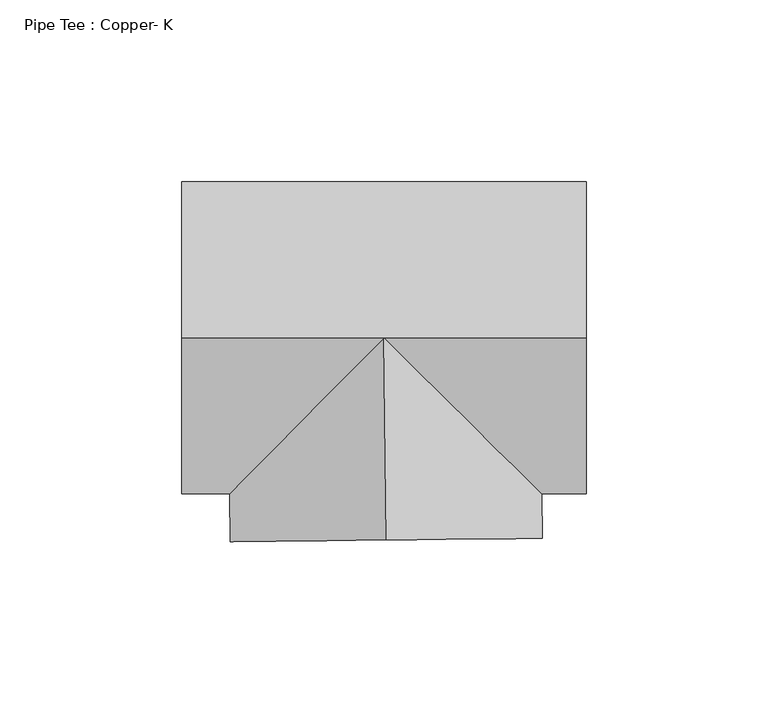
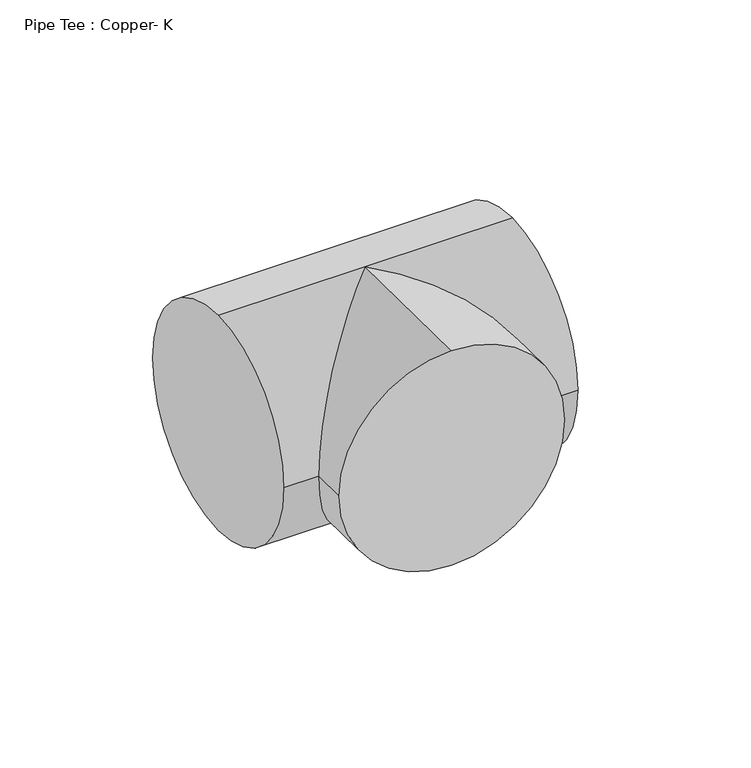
"""IFC4 building model written with IfcOpenShell, lengths in millimetres: pipe fitting geometry, Pipe Tee : Copper- K."""

import ifcopenshell
import ifcopenshell.guid

model = None  # the IFC model being written
_history = None  # IfcOwnerHistory: only IFC2X3 demands one
_inside = {}  # id of a spatial element -> (the spatial element, [elements in it])
_under = {}  # id of a project, library or spatial element -> (it, [spatial elements below it])
_declared = {}  # id of a project -> (the project, [libraries it declares])
_typed = {}  # id of a type object -> (the type object, [elements of that type])
_made_of = {}  # id of a material, layer set ... -> (it, [elements and type objects made of it])


def new_model(schema):
    """Start an empty IFC model of exactly this schema.

    Asked for "IFC4X3", IfcOpenShell would pick the latest addendum, in which some entities
    have other attributes; the version numbers below select the first issue.
    IFC2X3 requires an IfcOwnerHistory on every rooted entity: one is made here for all.
    """
    global model, _history
    if schema == "IFC4X3":
        model = ifcopenshell.file(schema_version=(4, 3, 0, 0))
    else:
        model = ifcopenshell.file(schema=schema)
    _inside.clear()
    _under.clear()
    _declared.clear()
    _typed.clear()
    _made_of.clear()
    _history = None
    if model.schema == "IFC2X3":
        org = make("IfcOrganization", Name="unknown")
        user = make(
            "IfcPersonAndOrganization",
            ThePerson=make("IfcPerson", FamilyName="unknown"),
            TheOrganization=org,
        )
        app = make(
            "IfcApplication",
            ApplicationDeveloper=org,
            Version="unknown",
            ApplicationFullName="unknown",
            ApplicationIdentifier="unknown",
        )
        _history = make(
            "IfcOwnerHistory",
            OwningUser=user,
            OwningApplication=app,
            ChangeAction="ADDED",
            CreationDate=0,
        )
    return model


def make(cls, **values):
    """One entity of the class cls with the attributes given. An attribute that is None is left unset."""
    return model.create_entity(
        cls, **{name: value for name, value in values.items() if value is not None}
    )


def rooted(cls, **values):
    """An entity with a GlobalId (a new one), such as an element, a storey or a relation."""
    return make(cls, GlobalId=ifcopenshell.guid.new(), OwnerHistory=_history, **values)


def si_unit(unit_type, name, prefix=None):
    """IfcSIUnit, for example si_unit("LENGTHUNIT", "METRE", prefix="MILLI")."""
    return make("IfcSIUnit", UnitType=unit_type, Prefix=prefix, Name=name)


def assignment(units):
    """IfcUnitAssignment: the units of a project."""
    return None if units is None else make("IfcUnitAssignment", Units=units)


def point(xyz):
    """IfcCartesianPoint."""
    return None if xyz is None else make("IfcCartesianPoint", Coordinates=xyz)


def direction(xyz):
    """IfcDirection."""
    return None if xyz is None else make("IfcDirection", DirectionRatios=xyz)


def frame(location, z_axis=None, x_axis=None):
    """IfcAxis2Placement3D, a coordinate frame: its origin and axes. An axis left out is left unset."""
    return make(
        "IfcAxis2Placement3D",
        Location=point(location),
        Axis=direction(z_axis),
        RefDirection=direction(x_axis),
    )


def origin():
    """The frame at (0, 0, 0) with its axes left unset."""
    return frame((0.0, 0.0, 0.0))


def place(relative_to, where):
    """IfcLocalPlacement: puts the frame where relative to a parent placement (None: the world)."""
    return make(
        "IfcLocalPlacement", PlacementRelTo=relative_to, RelativePlacement=where
    )


def context(
    kind, dimensions, precision=None, world=None, true_north=None, identifier=None
):
    """IfcGeometricRepresentationContext, for example the 3D "Model" context."""
    return make(
        "IfcGeometricRepresentationContext",
        ContextIdentifier=identifier,
        ContextType=kind,
        CoordinateSpaceDimension=dimensions,
        Precision=precision,
        WorldCoordinateSystem=world,
        TrueNorth=true_north,
    )


def project(units=None, contexts=None):
    """IfcProject with its units and contexts."""
    return rooted(
        "IfcProject",
        Name="project",
        RepresentationContexts=contexts,
        UnitsInContext=assignment(units),
    )


def spatial(cls, under=None, at=None, **own):
    """A site, building, storey or space (cls), placed at a placement, below another one or the project."""
    s = rooted(cls, ObjectPlacement=at, **own)
    if under is not None:
        _under.setdefault(under.id(), (under, []))[1].append(s)
    return s


def circle_curve(where, radius):
    """IfcCircle in the frame where."""
    return make("IfcCircle", Position=where, Radius=radius)


def ellipse_curve(where, semi_axis1, semi_axis2):
    """IfcEllipse in the frame where."""
    return make(
        "IfcEllipse", Position=where, SemiAxis1=semi_axis1, SemiAxis2=semi_axis2
    )


def shape(context_of_items, identifier, shape_type, items):
    """IfcShapeRepresentation: the items that make up one representation, for example the "Body"."""
    return make(
        "IfcShapeRepresentation",
        ContextOfItems=context_of_items,
        RepresentationIdentifier=identifier,
        RepresentationType=shape_type,
        Items=items,
    )


def source(mapping_origin, context_of_items, identifier, shape_type, items):
    """IfcRepresentationMap: a shape defined once, which mapped items show again and again."""
    return make(
        "IfcRepresentationMap",
        MappingOrigin=mapping_origin,
        MappedRepresentation=shape(context_of_items, identifier, shape_type, items),
    )


def transform(
    local_origin,
    x_axis=None,
    y_axis=None,
    z_axis=None,
    scale=None,
    scale2=None,
    scale3=None,
    uniform=True,
):
    """IfcCartesianTransformationOperator3D, or its non-uniform kind. x_axis, y_axis, z_axis: its Axis1, 2, 3."""
    if uniform:
        return make(
            "IfcCartesianTransformationOperator3D",
            Axis1=direction(x_axis),
            Axis2=direction(y_axis),
            LocalOrigin=point(local_origin),
            Scale=scale,
            Axis3=direction(z_axis),
        )
    return make(
        "IfcCartesianTransformationOperator3DnonUniform",
        Axis1=direction(x_axis),
        Axis2=direction(y_axis),
        LocalOrigin=point(local_origin),
        Scale=scale,
        Axis3=direction(z_axis),
        Scale2=scale2,
        Scale3=scale3,
    )


def mapped(mapping_source, mapping_target):
    """IfcMappedItem: shows the shape of a source again, moved by a transform."""
    return make(
        "IfcMappedItem", MappingSource=mapping_source, MappingTarget=mapping_target
    )


def made_of(thing, what):
    """Note that an element or type object is made of a material, layer set ...; save() writes the relation."""
    if what is not None:
        _made_of.setdefault(what.id(), (what, []))[1].append(thing)
    return thing


def element(
    cls,
    number,
    at=None,
    inside=None,
    cuts=None,
    type_object=None,
    material=None,
    context=None,
    identifier="Body",
    shape_type=None,
    held_by="IfcProductDefinitionShape",
    body=None,
    shapes=None,
    **own,
):
    """One element of the class cls, such as IfcWall. Its Tag is "e" and its number.

    at: its placement. inside: the storey or other place that contains it. cuts: it is an
    opening in that element (IfcRelVoidsElement). A single representation is given by context,
    identifier, shape_type and body (its items); several are given by shapes. held_by: the class
    of the entity that holds the representations. save() writes the other relations.
    """
    e = rooted(cls, Tag="e%d" % number, ObjectPlacement=at, **own)
    if body is not None:
        shapes = [shape(context, identifier, shape_type, body)]
    if shapes is not None:
        e.Representation = make(held_by, Representations=shapes)
    if inside is not None:
        _inside.setdefault(inside.id(), (inside, []))[1].append(e)
    if cuts is not None:
        rooted(
            "IfcRelVoidsElement", RelatingBuildingElement=cuts, RelatedOpeningElement=e
        )
    if type_object is not None:
        _typed.setdefault(type_object.id(), (type_object, []))[1].append(e)
    return made_of(e, material)


def aggregate(whole, parts):
    """IfcRelAggregates: a whole, such as a stair, and the parts it consists of."""
    return rooted("IfcRelAggregates", RelatingObject=whole, RelatedObjects=parts)


def save(model, path):
    """Write the relations noted so far, then the file.

    IfcRelAggregates (storeys below a building ...), IfcRelContainedInSpatialStructure (elements
    in a storey), IfcRelDefinesByType, IfcRelAssociatesMaterial and IfcRelDeclares: one each for
    every whole, place, type object, material and project.
    """
    for whole, parts in _under.values():
        aggregate(whole, parts)
    for where, things in _inside.values():
        rooted(
            "IfcRelContainedInSpatialStructure",
            RelatedElements=things,
            RelatingStructure=where,
        )
    for kind, things in _typed.values():
        rooted("IfcRelDefinesByType", RelatedObjects=things, RelatingType=kind)
    for what, things in _made_of.values():
        rooted("IfcRelAssociatesMaterial", RelatedObjects=things, RelatingMaterial=what)
    for by, libraries in _declared.values():
        rooted("IfcRelDeclares", RelatingContext=by, RelatedDefinitions=libraries)
    model.write(path)


def plane_surface(at):
    """IfcPlane: the flat surface through the origin of the frame at, square to its z axis."""
    return make("IfcPlane", Position=at)


def cylinder_surface(at, radius):
    """IfcCylindricalSurface: all points at the distance radius from the z axis of the frame at."""
    return make("IfcCylindricalSurface", Position=at, Radius=radius)


def advanced_brep(points, edges, surfaces, faces):
    """IfcAdvancedBrep: a solid bounded by faces that lie on surfaces and meet in shared edges.

    An edge is (start, end): straight between two places in points (the first is 0);
    or (start, end, curve); or (start, end, curve, False) where it runs against its curve.
    A face is (place in surfaces, loops), or (place, loops, False) where it looks against
    its surface's normal. A loop lists edges by number (the first is 1), with a minus sign
    where the edge is run from its end to its start. The first loop is the outer one.
    """
    corners = [point(p) for p in points]
    vertices = [make("IfcVertexPoint", VertexGeometry=c) for c in corners]
    made = []
    for start, end, *more in edges:
        made.append(
            make(
                "IfcEdgeCurve",
                EdgeStart=vertices[start],
                EdgeEnd=vertices[end],
                EdgeGeometry=more[0] if more else make("IfcPolyline", Points=[corners[start], corners[end]]),
                SameSense=more[1] if len(more) > 1 else True,
            )
        )
    hull = []
    for where, loops, *sense in faces:
        bounds = []
        for j, loop in enumerate(loops):
            ring = [make("IfcOrientedEdge", EdgeElement=made[abs(k) - 1], Orientation=k > 0) for k in loop]
            bounds.append(
                make(
                    "IfcFaceOuterBound" if j == 0 else "IfcFaceBound",
                    Bound=make("IfcEdgeLoop", EdgeList=ring),
                    Orientation=True,
                )
            )
        hull.append(make("IfcAdvancedFace", Bounds=bounds, FaceSurface=surfaces[where], SameSense=sense[0] if sense else True))
    return make("IfcAdvancedBrep", Outer=make("IfcClosedShell", CfsFaces=hull))


def pipe_tee_copper_k_a7c92e0f(model_context):
    return source(origin(), model_context, "Body", "AdvancedBrep", [
        advanced_brep(
        [(-55.5625, 0.0, 42.8625), (-55.5625, 42.8625, 0.0), (-55.5625, 0.0, -42.8625), (-55.5625, -42.8625, 0.0), (55.5625, 0.0, 42.8625), (55.5625, -42.8625, 0.0), (55.5625, 0.0, -42.8625), (55.5625, 42.8625, 0.0), (0.0, 0.0, 42.8625), (0.0, 0.0, -42.8625), (-42.4039178, -42.8625, 0.0), (43.3260416, -42.8625, 0.0), (0.5976383, -55.5592858, 42.8625), (-42.2623822, -56.020321, 0.0), (0.5976383, -55.5592858, -42.8625), (43.4576587, -55.0982505, 0.0)],
        [
            (0, 1, circle_curve(frame((-55.5625, 0.0, 0.0), z_axis=(-1.0, 0.0, 0.0), x_axis=(0.0, 1.0, 0.0)), 42.8625)),
            (1, 2, circle_curve(frame((-55.5625, 0.0, 0.0), z_axis=(-1.0, 0.0, 0.0), x_axis=(0.0, 1.0, 0.0)), 42.8625)),
            (2, 3, circle_curve(frame((-55.5625, 0.0, 0.0), z_axis=(-1.0, 0.0, 0.0), x_axis=(0.0, 1.0, 0.0)), 42.8625)),
            (3, 0, circle_curve(frame((-55.5625, 0.0, 0.0), z_axis=(-1.0, 0.0, 0.0), x_axis=(0.0, 1.0, 0.0)), 42.8625)),
            (4, 5, circle_curve(frame((55.5625, 0.0, 0.0), z_axis=(1.0, 0.0, 0.0), x_axis=(0.0, 1.0, 0.0)), 42.8625)),
            (5, 6, circle_curve(frame((55.5625, 0.0, 0.0), z_axis=(1.0, 0.0, 0.0), x_axis=(0.0, 1.0, 0.0)), 42.8625)),
            (6, 7, circle_curve(frame((55.5625, 0.0, 0.0), z_axis=(1.0, 0.0, 0.0), x_axis=(0.0, 1.0, 0.0)), 42.8625)),
            (7, 4, circle_curve(frame((55.5625, 0.0, 0.0), z_axis=(1.0, 0.0, 0.0), x_axis=(0.0, 1.0, 0.0)), 42.8625)),
            (0, 8),
            (8, 4),
            (7, 1),
            (6, 9),
            (9, 2),
            (9, 10, ellipse_curve(frame((0.0, 0.0, 0.0), z_axis=(-0.7108994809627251, 0.7032936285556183, 0.0), x_axis=(-0.7032936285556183, -0.7108994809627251, 0.0)), 60.2933342, 42.8625)),
            (10, 3),
            (5, 11),
            (11, 9, ellipse_curve(frame((0.0, 0.0, 0.0), z_axis=(0.7032936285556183, 0.7108994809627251, 0.0), x_axis=(-0.7108994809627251, 0.7032936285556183, 0.0)), 60.9453836, 42.8625)),
            (10, 8, ellipse_curve(frame((0.0, 0.0, 0.0), z_axis=(-0.7108994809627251, 0.7032936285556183, 0.0), x_axis=(-0.7032936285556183, -0.7108994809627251, 0.0)), 60.2933342, 42.8625)),
            (8, 11, ellipse_curve(frame((0.0, 0.0, 0.0), z_axis=(0.7032936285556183, 0.7108994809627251, 0.0), x_axis=(-0.7108994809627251, 0.7032936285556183, 0.0)), 60.9453836, 42.8625)),
            (12, 13, circle_curve(frame((0.5976383, -55.5592858, 0.0), z_axis=(0.010756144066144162, -0.9999421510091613, 0.0), x_axis=(0.9999421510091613, 0.010756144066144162, 0.0)), 42.8625)),
            (13, 14, circle_curve(frame((0.5976383, -55.5592858, 0.0), z_axis=(0.010756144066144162, -0.9999421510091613, 0.0), x_axis=(0.9999421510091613, 0.010756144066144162, 0.0)), 42.8625)),
            (14, 15, circle_curve(frame((0.5976383, -55.5592858, 0.0), z_axis=(0.010756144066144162, -0.9999421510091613, 0.0), x_axis=(0.9999421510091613, 0.010756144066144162, 0.0)), 42.8625)),
            (15, 12, circle_curve(frame((0.5976383, -55.5592858, 0.0), z_axis=(0.010756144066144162, -0.9999421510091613, 0.0), x_axis=(0.9999421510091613, 0.010756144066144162, 0.0)), 42.8625)),
            (15, 11),
            (8, 12),
            (14, 9),
            (13, 10),
        ],
        [
            plane_surface(frame((-55.5625, 0.0, 0.0), z_axis=(-1.0, 0.0, 0.0), x_axis=(0.0, 0.0, 1.0))),
            plane_surface(frame((55.5625, 0.0, 0.0), z_axis=(1.0, 0.0, 0.0), x_axis=(0.0, 0.0, 1.0))),
            cylinder_surface(frame((-55.5625, 0.0, 0.0), z_axis=(-1.0, 0.0, 0.0), x_axis=(0.0, 1.0, 0.0)), 42.8625),
            plane_surface(frame((0.5976383, -55.5592858, 0.0), z_axis=(0.010756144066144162, -0.9999421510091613, 0.0), x_axis=(0.0, 0.0, 1.0))),
            cylinder_surface(frame((0.0, 0.0, 0.0), z_axis=(-0.010756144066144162, 0.9999421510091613, 0.0), x_axis=(0.9999421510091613, 0.010756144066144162, 0.0)), 42.8625),
        ],
        [
            (0, [[1, 2, 3, 4]]),
            (1, [[5, 6, 7, 8]]),
            (2, [[-1, 9, 10, -8, 11]]),
            (2, [[-2, -11, -7, 12, 13]]),
            (2, [[-3, -13, 14, 15]]),
            (2, [[-6, 16, 17, -12]]),
            (2, [[-4, -15, 18, -9]]),
            (2, [[-5, -10, 19, -16]]),
            (3, [[20, 21, 22, 23]]),
            (4, [[-23, 24, -19, 25]]),
            (4, [[-22, 26, -17, -24]]),
            (4, [[-21, 27, -14, -26]]),
            (4, [[-20, -25, -18, -27]]),
        ],
    ),
        advanced_brep(
        [(-55.5625, 0.0, 42.8625), (-55.5625, 42.8625, 0.0), (-55.5625, 0.0, -42.8625), (-55.5625, -42.8625, 0.0), (55.5625, 0.0, 42.8625), (55.5625, -42.8625, 0.0), (55.5625, 0.0, -42.8625), (55.5625, 42.8625, 0.0), (0.0, 0.0, 42.8625), (0.0, 0.0, -42.8625), (-42.4039178, -42.8625, 0.0), (43.3260416, -42.8625, 0.0), (0.5976383, -55.5592858, 42.8625), (-42.2623822, -56.020321, 0.0), (0.5976383, -55.5592858, -42.8625), (43.4576587, -55.0982505, 0.0)],
        [
            (0, 1, circle_curve(frame((-55.5625, 0.0, 0.0), z_axis=(-1.0, 0.0, 0.0), x_axis=(0.0, 1.0, 0.0)), 42.8625)),
            (1, 2, circle_curve(frame((-55.5625, 0.0, 0.0), z_axis=(-1.0, 0.0, 0.0), x_axis=(0.0, 1.0, 0.0)), 42.8625)),
            (2, 3, circle_curve(frame((-55.5625, 0.0, 0.0), z_axis=(-1.0, 0.0, 0.0), x_axis=(0.0, 1.0, 0.0)), 42.8625)),
            (3, 0, circle_curve(frame((-55.5625, 0.0, 0.0), z_axis=(-1.0, 0.0, 0.0), x_axis=(0.0, 1.0, 0.0)), 42.8625)),
            (4, 5, circle_curve(frame((55.5625, 0.0, 0.0), z_axis=(1.0, 0.0, 0.0), x_axis=(0.0, 1.0, 0.0)), 42.8625)),
            (5, 6, circle_curve(frame((55.5625, 0.0, 0.0), z_axis=(1.0, 0.0, 0.0), x_axis=(0.0, 1.0, 0.0)), 42.8625)),
            (6, 7, circle_curve(frame((55.5625, 0.0, 0.0), z_axis=(1.0, 0.0, 0.0), x_axis=(0.0, 1.0, 0.0)), 42.8625)),
            (7, 4, circle_curve(frame((55.5625, 0.0, 0.0), z_axis=(1.0, 0.0, 0.0), x_axis=(0.0, 1.0, 0.0)), 42.8625)),
            (0, 8),
            (8, 4),
            (7, 1),
            (6, 9),
            (9, 2),
            (9, 10, ellipse_curve(frame((0.0, 0.0, 0.0), z_axis=(-0.710899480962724, 0.7032936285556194, 0.0), x_axis=(-0.7032936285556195, -0.710899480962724, 0.0)), 60.2933342, 42.8625)),
            (10, 3),
            (5, 11),
            (11, 9, ellipse_curve(frame((0.0, 0.0, 0.0), z_axis=(0.7032936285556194, 0.710899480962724, 0.0), x_axis=(-0.7108994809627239, 0.7032936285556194, 0.0)), 60.9453836, 42.8625)),
            (10, 8, ellipse_curve(frame((0.0, 0.0, 0.0), z_axis=(-0.710899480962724, 0.7032936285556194, 0.0), x_axis=(-0.7032936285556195, -0.710899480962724, 0.0)), 60.2933342, 42.8625)),
            (8, 11, ellipse_curve(frame((0.0, 0.0, 0.0), z_axis=(0.7032936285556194, 0.710899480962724, 0.0), x_axis=(-0.7108994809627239, 0.7032936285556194, 0.0)), 60.9453836, 42.8625)),
            (12, 13, circle_curve(frame((0.5976383, -55.5592858, 0.0), z_axis=(0.010756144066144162, -0.9999421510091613, 0.0), x_axis=(0.9999421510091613, 0.010756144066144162, 0.0)), 42.8625)),
            (13, 14, circle_curve(frame((0.5976383, -55.5592858, 0.0), z_axis=(0.010756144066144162, -0.9999421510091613, 0.0), x_axis=(0.9999421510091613, 0.010756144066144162, 0.0)), 42.8625)),
            (14, 15, circle_curve(frame((0.5976383, -55.5592858, 0.0), z_axis=(0.010756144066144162, -0.9999421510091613, 0.0), x_axis=(0.9999421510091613, 0.010756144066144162, 0.0)), 42.8625)),
            (15, 12, circle_curve(frame((0.5976383, -55.5592858, 0.0), z_axis=(0.010756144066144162, -0.9999421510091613, 0.0), x_axis=(0.9999421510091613, 0.010756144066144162, 0.0)), 42.8625)),
            (15, 11),
            (8, 12),
            (14, 9),
            (13, 10),
        ],
        [
            plane_surface(frame((-55.5625, 0.0, 0.0), z_axis=(-1.0, 0.0, 0.0), x_axis=(0.0, 0.0, 1.0))),
            plane_surface(frame((55.5625, 0.0, 0.0), z_axis=(1.0, 0.0, 0.0), x_axis=(0.0, 0.0, 1.0))),
            cylinder_surface(frame((-55.5625, 0.0, 0.0), z_axis=(-1.0, 0.0, 0.0), x_axis=(0.0, 1.0, 0.0)), 42.8625),
            plane_surface(frame((0.5976383, -55.5592858, 0.0), z_axis=(0.010756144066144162, -0.9999421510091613, 0.0), x_axis=(0.0, 0.0, 1.0))),
            cylinder_surface(frame((0.0, 0.0, 0.0), z_axis=(-0.010756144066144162, 0.9999421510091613, 0.0), x_axis=(0.9999421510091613, 0.010756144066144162, 0.0)), 42.8625),
        ],
        [
            (0, [[1, 2, 3, 4]]),
            (1, [[5, 6, 7, 8]]),
            (2, [[-1, 9, 10, -8, 11]]),
            (2, [[-2, -11, -7, 12, 13]]),
            (2, [[-3, -13, 14, 15]]),
            (2, [[-6, 16, 17, -12]]),
            (2, [[-4, -15, 18, -9]]),
            (2, [[-5, -10, 19, -16]]),
            (3, [[20, 21, 22, 23]]),
            (4, [[-23, 24, -19, 25]]),
            (4, [[-22, 26, -17, -24]]),
            (4, [[-21, 27, -14, -26]]),
            (4, [[-20, -25, -18, -27]]),
        ],
    ),
    ])


if __name__ == "__main__":
    model = new_model("IFC4")
    model_context = context("Model", 3, world=origin())
    ifc_project = project(units=[si_unit("LENGTHUNIT", "METRE", prefix="MILLI")], contexts=[model_context])
    site = spatial("IfcSite", under=ifc_project)
    building = spatial("IfcBuilding", under=site)
    placement = place(None, origin())
    pipe_tee_copper_k_shape = pipe_tee_copper_k_a7c92e0f(model_context)
    element("IfcPipeFitting", 1, ObjectType="Pipe Tee : Copper- K", at=placement, inside=building, context=model_context, shape_type="MappedRepresentation", body=[
        mapped(pipe_tee_copper_k_shape, transform((0.0, 0.0, 0.0), x_axis=(1.0, 0.0, 0.0), y_axis=(0.0, 1.0, 0.0), z_axis=(0.0, 0.0, 1.0))),
    ])
    save(model, "model.ifc")
